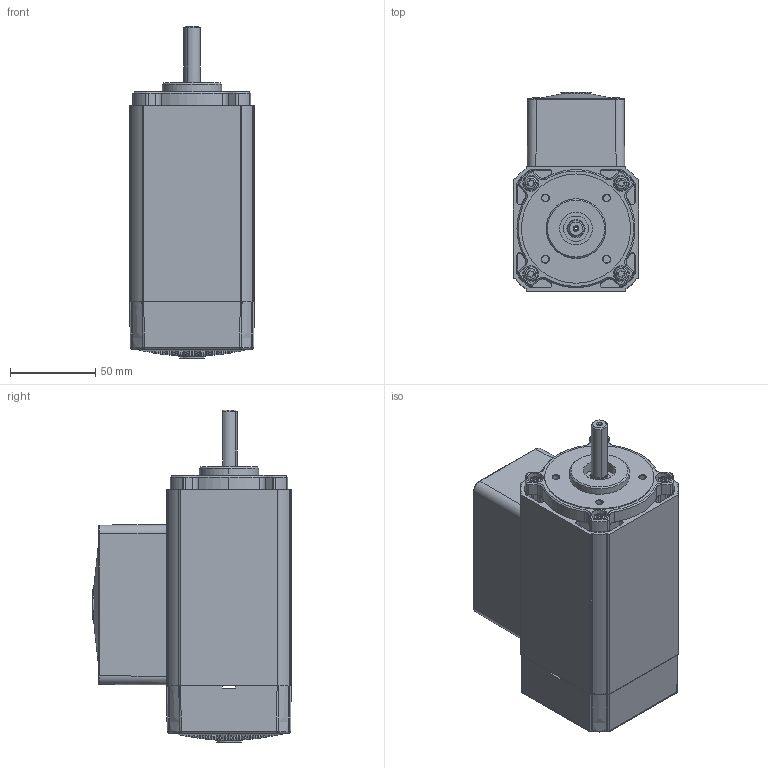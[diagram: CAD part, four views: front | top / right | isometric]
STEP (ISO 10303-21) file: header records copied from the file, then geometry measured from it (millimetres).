
FILE_DESCRIPTION (( 'STEP AP203' ), '1' );
FILE_NAME ('OUTLINE AC6540FC.STEP', '2006-09-21T14:00:34', ( 'Groschopp' ), ( 'Groschopp' ), 'SwSTEP 2.0', 'SolidWorks 2007', '' );
FILE_SCHEMA (( 'CONFIG_CONTROL_DESIGN' ));
Length unit declared in the file: inch
Products named in the file (1): OUTLINE AC6540FC
Bounding box: 73.25 x 116.5 x 194.46 mm (x, y, z)
Surface area: 125324.7 mm2 (no closed solid volume)
Topology: 0 solids, 25 shells, 992 faces, 3094 edges, 2061 vertices
Faces by surface type: plane 600, cylinder 248, cone 56, bspline 50, torus 28, sphere 10
Entity records: 36967 total; most frequent: CARTESIAN_POINT 9482, DIRECTION 6161, ORIENTED_EDGE 5237, EDGE_CURVE 3078, AXIS2_PLACEMENT_3D 2452, VERTEX_POINT 2061, CIRCLE 1509, LINE 1257
